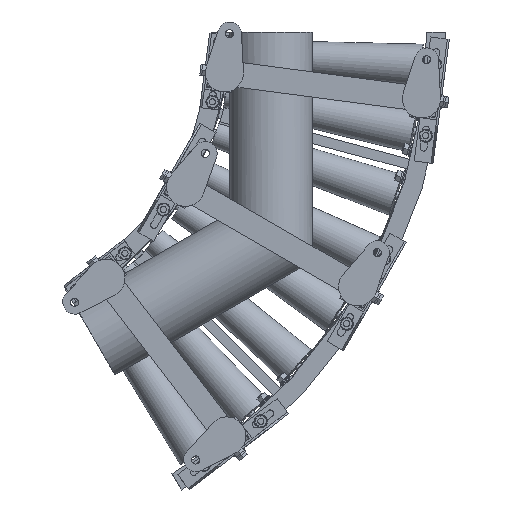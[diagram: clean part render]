
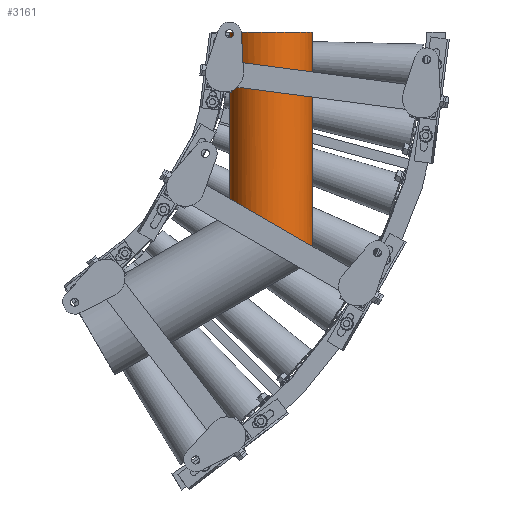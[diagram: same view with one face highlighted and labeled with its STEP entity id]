
A CAD part, front view. The second image highlights one B-rep face of the part: STEP entity #3161.
In plain terms, the highlighted cylindrical face has radius 67.024 mm (diameter 134.048 mm), a partial arc.
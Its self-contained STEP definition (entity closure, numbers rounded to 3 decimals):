
#3161=ADVANCED_FACE('',(#19269),#19268,.T.);
#19268=CYLINDRICAL_SURFACE('',#40071,67.024);
#19269=FACE_OUTER_BOUND('',#40072,.T.);
#40068=CARTESIAN_POINT('',(566.3,-156.676,0.));
#40069=DIRECTION('',(0.,0.,1.));
#40070=DIRECTION('',(1.,0.,0.));
#40071=AXIS2_PLACEMENT_3D('',#40068,#40069,#40070);
#40072=EDGE_LOOP('',(#54048,#54049,#54050,#54051));
#54048=ORIENTED_EDGE('',*,*,#63957,.F.);
#54049=ORIENTED_EDGE('',*,*,#63942,.F.);
#54050=ORIENTED_EDGE('',*,*,#63958,.T.);
#54051=ORIENTED_EDGE('',*,*,#63954,.F.);
#63942=EDGE_CURVE('',#90753,#90760,#90761,.T.);
#63954=EDGE_CURVE('',#90824,#90837,#90838,.T.);
#63957=EDGE_CURVE('',#90760,#90824,#90856,.T.);
#63958=EDGE_CURVE('',#90753,#90837,#90862,.T.);
#90753=VERTEX_POINT('',#127448);
#90760=VERTEX_POINT('',#127452);
#90761=CIRCLE('',#127456,67.024);
#90824=VERTEX_POINT('',#127487);
#90837=VERTEX_POINT('',#127494);
#90838=(BOUNDED_CURVE() B_SPLINE_CURVE(2,(#127495,#127496,#127497,#127498,#127499),.UNSPECIFIED.,.F.,.F.) B_SPLINE_CURVE_WITH_KNOTS((3,2,3),(0.147,1.571,2.994),.UNSPECIFIED.) CURVE() GEOMETRIC_REPRESENTATION_ITEM() RATIONAL_B_SPLINE_CURVE((1.,0.757,1.,0.757,1.)) REPRESENTATION_ITEM('') );
#90856=LINE('',#127506,#127507);
#90862=LINE('',#127509,#127510);
#127448=CARTESIAN_POINT('',(500.,-166.5,0.));
#127452=CARTESIAN_POINT('',(632.6,-166.5,0.));
#127453=CARTESIAN_POINT('',(566.3,-156.676,0.));
#127454=DIRECTION('',(0.,0.,1.));
#127455=DIRECTION('',(1.,0.,0.));
#127456=AXIS2_PLACEMENT_3D('',#127453,#127454,#127455);
#127487=CARTESIAN_POINT('',(632.6,-166.5,-365.232));
#127494=CARTESIAN_POINT('',(500.,-166.5,-288.675));
#127495=CARTESIAN_POINT('',(632.6,-166.5,-365.232));
#127496=CARTESIAN_POINT('',(624.125,-223.7,-360.338));
#127497=CARTESIAN_POINT('',(566.3,-223.7,-326.953));
#127498=CARTESIAN_POINT('',(508.475,-223.7,-293.568));
#127499=CARTESIAN_POINT('',(500.,-166.5,-288.675));
#127506=CARTESIAN_POINT('',(632.6,-166.5,0.));
#127507=VECTOR('',#127508,365.232);
#127508=DIRECTION('',(0.,0.,-1.));
#127509=CARTESIAN_POINT('',(500.,-166.5,0.));
#127510=VECTOR('',#127511,288.675);
#127511=DIRECTION('',(0.,0.,-1.));
